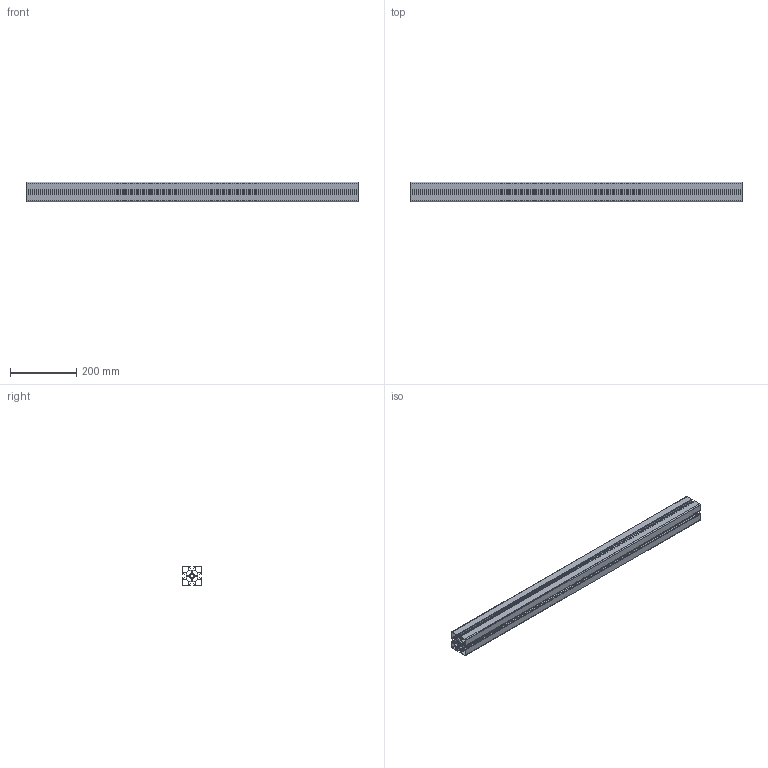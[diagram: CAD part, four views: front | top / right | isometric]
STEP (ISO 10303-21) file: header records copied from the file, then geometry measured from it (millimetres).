
FILE_DESCRIPTION (( 'STEP AP214' ), '1' );
FILE_NAME ('6060LS10.STEP', '2019-12-19T08:34:11', ( '' ), ( '' ), 'SwSTEP 2.0', 'SolidWorks 2014', '' );
FILE_SCHEMA (( 'AUTOMOTIVE_DESIGN' ));
Length unit declared in the file: millimetre
Products named in the file (2): 6060LS10
Bounding box: 1000 x 60 x 60 mm (x, y, z)
Volume: 842949.7 mm3; surface area: 991827.9 mm2
Topology: 1 solids, 1 shells, 324 faces, 966 edges, 644 vertices
Faces by surface type: cylinder 162, plane 162
Entity records: 11059 total; most frequent: DIRECTION 1942, CARTESIAN_POINT 1936, ORIENTED_EDGE 1932, EDGE_CURVE 966, AXIS2_PLACEMENT_3D 650, VERTEX_POINT 644, LINE 642, VECTOR 642
